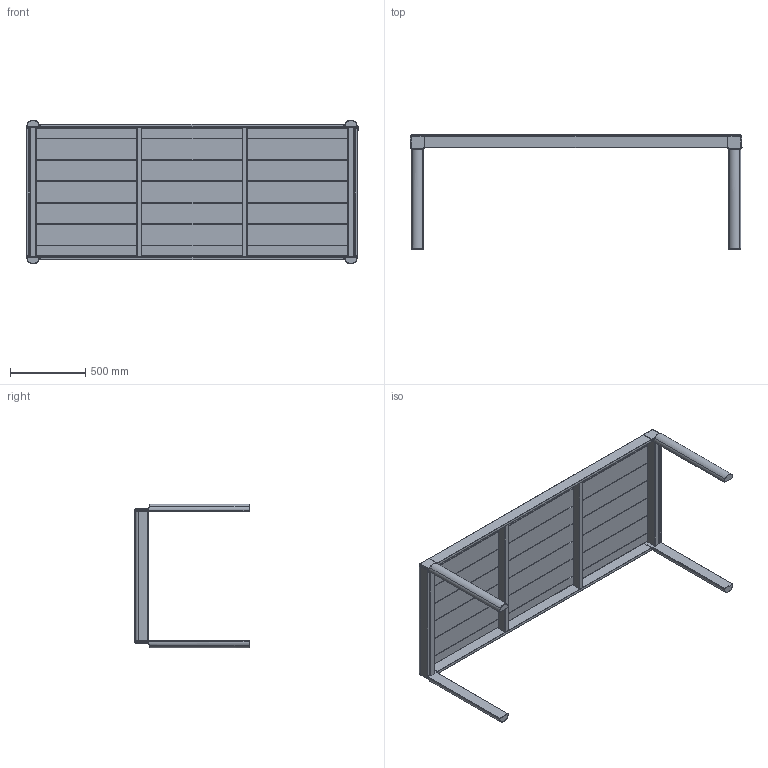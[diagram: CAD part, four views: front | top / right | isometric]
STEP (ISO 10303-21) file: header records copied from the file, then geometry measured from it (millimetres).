
FILE_DESCRIPTION (( 'STEP AP203' ), '1' );
FILE_NAME ('BURLY DINING TABLE.STEP', '2023-06-09T05:23:37', ( '' ), ( '' ), 'SwSTEP 2.0', 'SolidWorks 2023', '' );
FILE_SCHEMA (( 'CONFIG_CONTROL_DESIGN' ));
Length unit declared in the file: millimetre
Products named in the file (2): BURLY DINING TABLE; Group1^BURLY DINING TABLE
Assembly tree (1 placements, depth 2):
  BURLY DINING TABLE
    Group1^BURLY DINING TABLE
Bounding box: 2200 x 760 x 952 mm (x, y, z)
Volume: 66531950.3 mm3; surface area: 6314938.9 mm2
Topology: 1 solids, 1 shells, 526 faces, 1272 edges, 684 vertices
Faces by surface type: plane 210, cylinder 156, torus 60, bspline 44, cone 36, sphere 20
Entity records: 19315 total; most frequent: CARTESIAN_POINT 7157, DIRECTION 2524, ORIENTED_EDGE 2520, EDGE_CURVE 1260, AXIS2_PLACEMENT_3D 890, VECTOR 744, LINE 744, VERTEX_POINT 684
